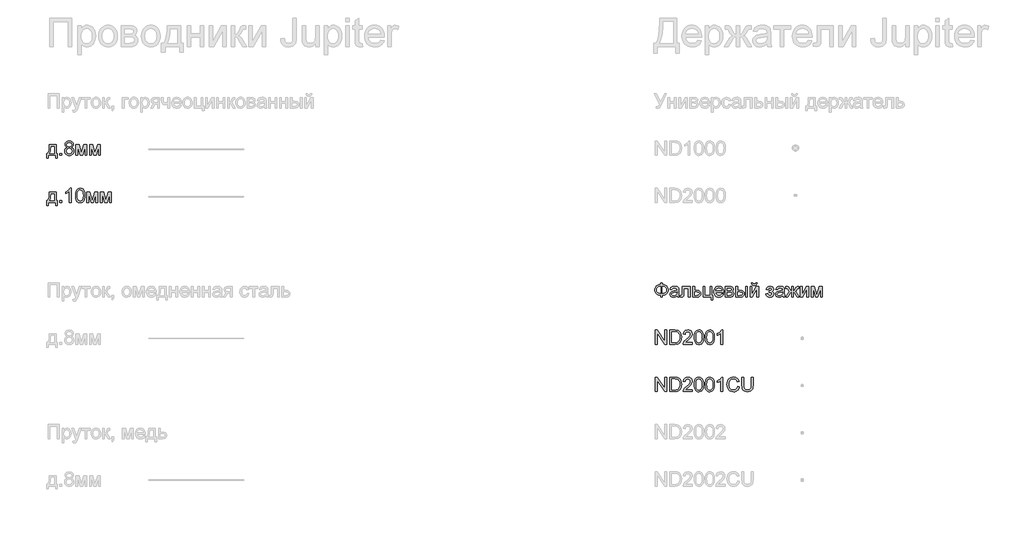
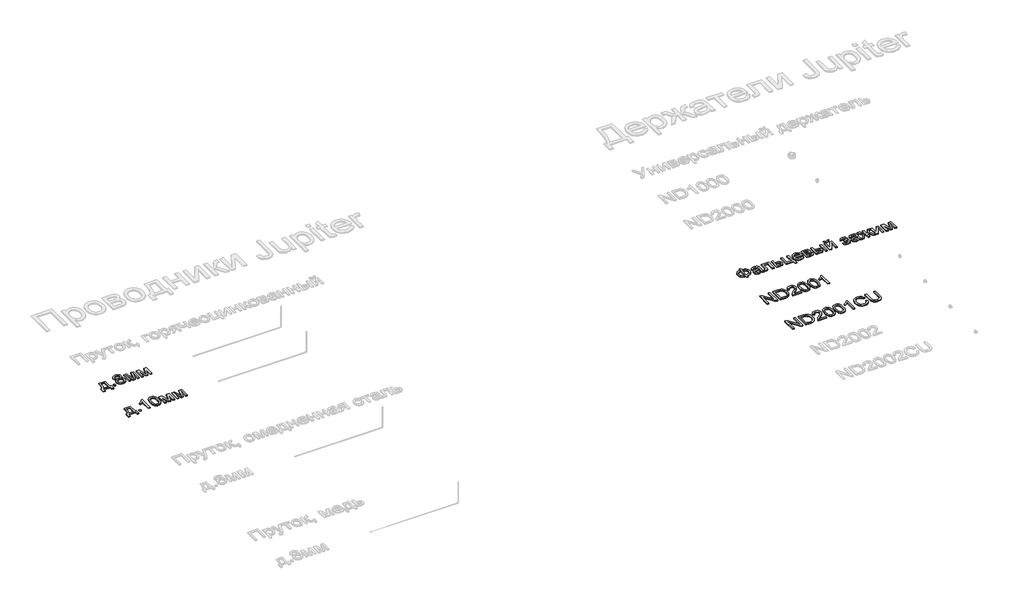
# One storey, part 96 of 124: 5 proxies.
"""IFC4 building model written with IfcOpenShell, lengths in millimetres."""

from ifc_helpers import new_model, si_unit, origin, origin_with_axes, place, context, project, spatial, polyline, outline, extrude, element, save

model = new_model("IFC4")

# Units and contexts
model_context = context("Model", 3, world=origin())
ifc_project = project(units=[si_unit("LENGTHUNIT", "METRE", prefix="MILLI")], contexts=[model_context])

# Site, building, storey
site = spatial("IfcSite", under=ifc_project)
building = spatial("IfcBuilding", under=site)
storey = spatial("IfcBuildingStorey", under=building, Name="Этаж 01", Elevation=0.0)

# Proxies
placement = place(None, origin())
element("IfcBuildingElementProxy", 1, Name="300", ObjectType="300", at=placement, inside=storey, context=model_context, shape_type="SweptSolid", body=[
    extrude(outline(polyline([(1328.0754049, -5298.196295), (1469.3420911, -5298.196295), (1469.3420911, -5481.842987), (1497.5954283, -5481.842987), (1497.5954283, -5580.7296673), (1459.924312, -5580.7296673), (1459.924312, -5519.5141033), (1304.5309572, -5519.5141033), (1304.5309572, -5580.7296673), (1266.8598409, -5580.7296673), (1266.8598409, -5481.842987), (1290.4042886, -5481.842987), (1307.5199984, -5450.9133082), (1319.5037544, -5409.9956333), (1326.3555566, -5359.0899622), (1328.0754049, -5298.196295)]), holes=[polyline([(1361.0376317, -5335.8674113), (1357.9474229, -5381.9906164), (1352.2084638, -5421.6942807), (1343.8207543, -5454.9784043), (1332.7842945, -5481.842987), (1431.6709748, -5481.842987), (1431.6709748, -5335.8674113), (1361.0376317, -5335.8674113)])]), origin_with_axes(), (0.0, 0.0, 1.0), 20.0),
    extrude(outline(polyline([(1549.3932132, -5519.5141033), (1549.3932132, -5481.842987), (1587.0643295, -5481.842987), (1587.0643295, -5519.5141033), (1549.3932132, -5519.5141033)])), origin_with_axes(), (0.0, 0.0, 1.0), 20.0),
    extrude(outline(polyline([(1703.1678872, -5353.525747), (1682.9987568, -5343.5929332), (1668.8444971, -5330.1284521), (1660.4843787, -5313.4082155), (1657.6976726, -5293.7081346), (1659.2151858, -5278.3444628), (1663.7677255, -5264.2591809), (1671.3552917, -5251.452289), (1681.9778843, -5239.9237869), (1695.1250671, -5230.3956433), (1710.2864038, -5223.5898263), (1746.651539, -5218.1451728), (1783.2374035, -5223.718585), (1798.5642871, -5230.6853503), (1811.913805, -5240.4388217), (1822.7295356, -5252.1926515), (1830.4550575, -5265.1604918), (1835.0903707, -5279.3423427), (1836.6354751, -5294.7382042), (1833.8855571, -5313.8036886), (1825.6358034, -5330.2388167), (1811.7942433, -5343.6205243), (1792.2689064, -5353.525747), (1815.4546692, -5365.4727148), (1832.3312557, -5383.0666712), (1842.6227545, -5405.4614877), (1846.0532541, -5431.8110356), (1844.3517999, -5450.6006085), (1839.2474372, -5467.8266829), (1830.7401661, -5483.4892589), (1818.8299865, -5497.5883363), (1804.1422978, -5509.2409985), (1787.3024995, -5517.5643287), (1768.3105915, -5522.5583268), (1747.1665738, -5524.2229928), (1726.0225562, -5522.551429), (1707.0306482, -5517.5367375), (1690.1908498, -5509.1789185), (1675.5031612, -5497.4779717), (1663.5929816, -5483.280026), (1655.0857104, -5467.4312098), (1649.9813478, -5449.9315231), (1648.2798935, -5430.780966), (1651.8483489, -5403.4105456), (1662.5537149, -5380.8961675), (1679.8441687, -5364.0103839), (1703.1678872, -5353.525747)]), holes=[polyline([(1695.3687889, -5294.8117806), (1698.707318, -5311.2561058), (1708.7229053, -5324.389493), (1725.1212453, -5332.9979317), (1747.6080322, -5335.8674113), (1769.5705873, -5333.0163258), (1785.7206069, -5324.4630694), (1795.6534208, -5311.7711406), (1798.9643587, -5296.5040378), (1795.5430562, -5280.6575208), (1785.2791485, -5267.5517248), (1768.9083997, -5258.750148), (1747.1665738, -5255.8162891), (1725.2867922, -5258.6857687), (1708.9436345, -5267.2942074), (1698.7625003, -5279.9125598), (1695.3687889, -5294.8117806)]), polyline([(1685.9510098, -5429.4565908), (1692.2417919, -5457.8202927), (1700.9513982, -5469.9879897), (1714.4986527, -5479.0470838), (1730.7222486, -5484.6756783), (1747.4608794, -5486.5518765), (1773.1022545, -5482.6063421), (1792.3424828, -5470.7697389), (1804.3722241, -5452.8446887), (1808.3821378, -5430.6338132), (1804.2434654, -5408.0458587), (1791.827448, -5389.7253354), (1772.1457613, -5377.5852295), (1746.2100806, -5373.5385276), (1720.9273905, -5377.5300472), (1701.8803002, -5389.5046062), (1689.9333324, -5407.4756416), (1685.9510098, -5429.4565908)])]), origin_with_axes(), (0.0, 0.0, 1.0), 20.0),
    extrude(outline(polyline([(1888.43326, -5298.196295), (1953.2540675, -5298.196295), (2003.2124425, -5475.3682638), (2057.0703666, -5298.196295), (2119.1688474, -5298.196295), (2119.1688474, -5519.5141033), (2081.497731, -5519.5141033), (2081.497731, -5341.3120648), (2027.3455014, -5519.5141033), (1977.9021612, -5519.5141033), (1926.1043763, -5332.7772025), (1926.1043763, -5519.5141033), (1888.43326, -5519.5141033), (1888.43326, -5298.196295)])), origin_with_axes(), (0.0, 0.0, 1.0), 20.0),
    extrude(outline(polyline([(2175.6755218, -5298.196295), (2240.4963294, -5298.196295), (2290.4547043, -5475.3682638), (2344.3126284, -5298.196295), (2406.4111092, -5298.196295), (2406.4111092, -5519.5141033), (2368.7399929, -5519.5141033), (2368.7399929, -5341.3120648), (2314.5877632, -5519.5141033), (2265.144423, -5519.5141033), (2213.3466381, -5332.7772025), (2213.3466381, -5519.5141033), (2175.6755218, -5519.5141033), (2175.6755218, -5298.196295)])), origin_with_axes(), (0.0, 0.0, 1.0), 20.0),
])
element("IfcBuildingElementProxy", 2, Name="300", ObjectType="300", at=placement, inside=storey, context=model_context, shape_type="SweptSolid", body=[
    extrude(outline(polyline([(1328.0754049, -6298.196295), (1469.3420911, -6298.196295), (1469.3420911, -6481.842987), (1497.5954283, -6481.842987), (1497.5954283, -6580.7296673), (1459.924312, -6580.7296673), (1459.924312, -6519.5141033), (1304.5309572, -6519.5141033), (1304.5309572, -6580.7296673), (1266.8598409, -6580.7296673), (1266.8598409, -6481.842987), (1290.4042886, -6481.842987), (1307.5199984, -6450.9133082), (1319.5037544, -6409.9956333), (1326.3555566, -6359.0899622), (1328.0754049, -6298.196295)]), holes=[polyline([(1361.0376317, -6335.8674113), (1357.9474229, -6381.9906164), (1352.2084638, -6421.6942807), (1343.8207543, -6454.9784043), (1332.7842945, -6481.842987), (1431.6709748, -6481.842987), (1431.6709748, -6335.8674113), (1361.0376317, -6335.8674113)])]), origin_with_axes(), (0.0, 0.0, 1.0), 20.0),
    extrude(outline(polyline([(1549.3932132, -6519.5141033), (1549.3932132, -6481.842987), (1587.0643295, -6481.842987), (1587.0643295, -6519.5141033), (1549.3932132, -6519.5141033)])), origin_with_axes(), (0.0, 0.0, 1.0), 20.0),
    extrude(outline(polyline([(1789.5465797, -6519.5141033), (1751.8754634, -6519.5141033), (1751.8754634, -6284.6582375), (1716.1909098, -6310.0788834), (1676.5332308, -6329.0983826), (1676.5332308, -6293.4874054), (1706.1201402, -6277.3925681), (1731.7523182, -6258.2443103), (1751.9582368, -6237.8820419), (1765.266368, -6218.1451728), (1789.5465797, -6218.1451728), (1789.5465797, -6519.5141033)])), origin_with_axes(), (0.0, 0.0, 1.0), 20.0),
    extrude(outline(polyline([(1879.0154809, -6371.2576592), (1881.7837929, -6323.0191326), (1890.088729, -6284.5478729), (1903.8475156, -6255.2552691), (1922.9773793, -6234.5527098), (1947.616276, -6222.2470571), (1977.9021612, -6218.1451728), (2001.1155151, -6220.573194), (2021.9008478, -6227.8572575), (2039.2832721, -6239.7122548), (2052.2879006, -6255.8530773), (2062.1103499, -6276.1417694), (2069.9462364, -6300.4403751), (2075.0781902, -6331.2964775), (2076.7888415, -6371.2576592), (2074.0481206, -6419.2202743), (2065.8259581, -6457.5995635), (2052.1499449, -6486.9197585), (2033.0476723, -6507.7050912), (2008.3535934, -6520.0935174), (1977.9021612, -6524.2229928), (1957.1536167, -6522.4295681), (1938.7595169, -6517.0492939), (1922.7198619, -6508.0821703), (1909.0346517, -6495.5281972), (1895.9012645, -6472.8344766), (1886.5202736, -6444.5581467), (1880.8916791, -6410.6992076), (1879.0154809, -6371.2576592)]), holes=[polyline([(1916.6865972, -6371.1840828), (1921.1011811, -6430.4406752), (1926.6194111, -6450.7086739), (1934.344933, -6464.7364742), (1954.0634079, -6481.0980259), (1977.9021612, -6486.5518765), (2001.7409145, -6481.0796318), (2021.4593894, -6464.6628978), (2029.1849113, -6450.6121048), (2034.7031413, -6430.3487047), (2039.1177252, -6371.1840828), (2034.8502941, -6313.2610627), (2029.5160051, -6293.0597426), (2022.0480006, -6278.6985492), (2002.3663139, -6261.5368541), (1977.4607028, -6255.8162891), (1953.8794669, -6260.8562725), (1934.9335442, -6275.9762225), (1926.9505049, -6291.6112072), (1921.2483339, -6312.6908456), (1916.6865972, -6371.1840828)])]), origin_with_axes(), (0.0, 0.0, 1.0), 20.0),
    extrude(outline(polyline([(2119.1688474, -6298.196295), (2183.9896549, -6298.196295), (2233.9480298, -6475.3682638), (2287.8059539, -6298.196295), (2349.9044347, -6298.196295), (2349.9044347, -6519.5141033), (2312.2333184, -6519.5141033), (2312.2333184, -6341.3120648), (2258.0810887, -6519.5141033), (2208.6377486, -6519.5141033), (2156.8399637, -6332.7772025), (2156.8399637, -6519.5141033), (2119.1688474, -6519.5141033), (2119.1688474, -6298.196295)])), origin_with_axes(), (0.0, 0.0, 1.0), 20.0),
    extrude(outline(polyline([(2406.4111092, -6298.196295), (2471.2319167, -6298.196295), (2521.1902917, -6475.3682638), (2575.0482158, -6298.196295), (2637.1466966, -6298.196295), (2637.1466966, -6519.5141033), (2599.4755803, -6519.5141033), (2599.4755803, -6341.3120648), (2545.3233506, -6519.5141033), (2495.8800104, -6519.5141033), (2444.0822255, -6332.7772025), (2444.0822255, -6519.5141033), (2406.4111092, -6519.5141033), (2406.4111092, -6298.196295)])), origin_with_axes(), (0.0, 0.0, 1.0), 20.0),
])
element("IfcBuildingElementProxy", 3, Name="300", ObjectType="300", at=placement, inside=storey, context=model_context, shape_type="SweptSolid", body=[
    extrude(outline(polyline([(14248.4715869, -8255.8162891), (14248.4715869, -8218.1451728), (14286.1427032, -8218.1451728), (14286.1427032, -8255.8162891), (14313.0141837, -8259.1364241), (14336.9012215, -8266.0066204), (14357.8038166, -8276.4268779), (14375.721969, -8290.3971967), (14390.0946587, -8307.1036378), (14400.3608657, -8325.7322623), (14406.5205898, -8346.2830703), (14408.5738312, -8368.7560616), (14406.5849692, -8390.7783976), (14400.6183831, -8411.0808852), (14390.6740729, -8429.6635245), (14376.7520386, -8446.5263154), (14359.1557829, -8460.7357575), (14338.1888085, -8471.3583501), (14313.8511152, -8478.3940932), (14286.1427032, -8481.842987), (14286.1427032, -8519.5141033), (14248.4715869, -8519.5141033), (14248.4715869, -8481.842987), (14223.3038599, -8479.0355875), (14200.3342278, -8472.6735282), (14179.5626907, -8462.7568092), (14160.9892485, -8449.2854304), (14145.699153, -8432.8158133), (14134.7776563, -8413.9043795), (14128.2247583, -8392.5511289), (14126.0404589, -8368.7560616), (14128.2178605, -8344.852929), (14134.7500651, -8323.469788), (14145.6370729, -8304.6066387), (14160.8788839, -8288.2634811), (14179.4178372, -8274.9231602), (14200.1962721, -8265.0685213), (14223.2141887, -8258.6995643), (14248.4715869, -8255.8162891)]), holes=[polyline([(14286.1427032, -8293.4874054), (14286.1427032, -8444.1718706), (14321.3857984, -8437.9454679), (14348.241184, -8422.7979267), (14358.1556038, -8412.0718673), (14365.2373322, -8399.5017994), (14370.9027149, -8368.829638), (14365.3384997, -8338.5713439), (14358.3832308, -8326.0771517), (14348.6458542, -8315.3395959), (14321.8916361, -8300.0173108), (14286.1427032, -8293.4874054)]), polyline([(14248.4715869, -8293.4874054), (14214.194182, -8299.5206701), (14187.1456583, -8314.5302555), (14176.893247, -8325.2356216), (14169.570096, -8337.853974), (14165.1762054, -8352.3853129), (14163.7115752, -8368.829638), (14165.1578113, -8385.1245112), (14169.4965196, -8399.5753758), (14176.7277001, -8412.1822319), (14186.8513527, -8422.9450795), (14213.8263, -8438.0926207), (14248.4715869, -8444.1718706), (14248.4715869, -8293.4874054)])]), origin_with_axes(), (0.0, 0.0, 1.0), 20.0),
    extrude(outline(polyline([(14596.9294127, -8491.260766), (14578.9307861, -8506.6934157), (14560.3987306, -8516.7917765), (14540.9101819, -8522.3651887), (14520.0420757, -8524.2229928), (14488.560574, -8519.7532266), (14465.3380231, -8506.3439278), (14451.0182164, -8485.9816594), (14446.2449475, -8460.652984), (14448.0475693, -8445.0363933), (14453.4554346, -8430.8545424), (14461.7971589, -8418.7144366), (14472.4013574, -8409.2230811), (14498.7784964, -8396.8622461), (14531.3728412, -8391.1968633), (14569.8900861, -8385.237175), (14596.7086835, -8378.2474171), (14596.9294127, -8369.8597076), (14594.3358447, -8353.0475004), (14586.5551405, -8342.0478288), (14569.1543221, -8333.8808485), (14544.9108986, -8331.1585217), (14522.4700969, -8332.9703406), (14506.7983239, -8338.405797), (14496.111352, -8348.4581726), (14488.6249534, -8364.1207485), (14450.9538371, -8359.411859), (14457.4929395, -8338.8104672), (14467.2510094, -8322.6236594), (14481.1385548, -8310.2444303), (14500.0660834, -8301.0657745), (14523.215058, -8295.3819977), (14549.766941, -8293.4874054), (14575.2335721, -8295.1612685), (14595.4210966, -8300.1828577), (14610.6422141, -8307.7336357), (14621.2096244, -8316.9950649), (14628.2177764, -8328.445392), (14632.7611191, -8342.5628636), (14634.600529, -8375.5250903), (14634.600529, -8422.3932565), (14636.5135154, -8487.8394635), (14644.0183081, -8519.5141033), (14606.3471918, -8519.5141033), (14596.9294127, -8491.260766)]), holes=[polyline([(14596.9294127, -8415.9185334), (14536.1553071, -8427.4700281), (14503.7449034, -8433.5768692), (14489.0664118, -8443.5096831), (14483.9160638, -8458.0042337), (14486.721164, -8469.2062404), (14495.1364647, -8478.3848962), (14508.9780247, -8484.5101314), (14528.0619032, -8486.5518765), (14548.295413, -8484.2985993), (14566.1744779, -8477.5387676), (14580.6690286, -8467.5783626), (14590.7489952, -8455.7233653), (14595.2187615, -8443.5096831), (14596.7086835, -8426.5871113), (14596.9294127, -8415.9185334)])]), origin_with_axes(), (0.0, 0.0, 1.0), 20.0),
    extrude(outline(polyline([(14705.2338721, -8298.196295), (14874.7538955, -8298.196295), (14874.7538955, -8519.2933741), (14837.0827792, -8519.2933741), (14837.0827792, -8335.8674113), (14742.9049884, -8335.8674113), (14742.9049884, -8441.4495439), (14740.3666027, -8490.15712), (14735.6117279, -8501.1843829), (14726.423875, -8510.7217236), (14712.4811474, -8517.3160083), (14693.4616483, -8519.5141033), (14662.8538663, -8517.6011169), (14662.8538663, -8481.842987), (14679.7028617, -8481.842987), (14696.735798, -8479.5253304), (14703.5416149, -8472.1676905), (14705.2338721, -8439.3158283), (14705.2338721, -8298.196295)])), origin_with_axes(), (0.0, 0.0, 1.0), 20.0),
    extrude(outline(polyline([(14931.26057, -8298.196295), (14968.9316863, -8298.196295), (14968.9316863, -8378.2474171), (15012.3417617, -8378.2474171), (15049.9760898, -8382.9655037), (15065.123631, -8388.8631119), (15077.8247568, -8397.1197635), (15087.8679353, -8407.4503497), (15095.0416342, -8419.5697622), (15100.7805933, -8449.1750658), (15095.8969598, -8476.131619), (15081.2460594, -8498.8759233), (15070.0141622, -8507.9051271), (15055.8530047, -8514.3545583), (15018.7429084, -8519.5141033), (14931.26057, -8519.5141033), (14931.26057, -8298.196295)]), holes=[polyline([(14968.9316863, -8481.842987), (15004.101205, -8481.842987), (15031.388852, -8479.8656212), (15049.5346314, -8473.9335241), (15059.7157656, -8463.8075721), (15063.109477, -8449.2486422), (15060.5986824, -8436.9429894), (15053.0662986, -8426.0720765), (15036.925476, -8418.4569192), (15008.5893653, -8415.9185334), (14968.9316863, -8415.9185334), (14968.9316863, -8481.842987)])]), origin_with_axes(), (0.0, 0.0, 1.0), 20.0),
    extrude(outline(polyline([(15147.8694887, -8298.196295), (15185.540605, -8298.196295), (15185.540605, -8481.842987), (15293.8450644, -8481.842987), (15293.8450644, -8298.196295), (15331.5161807, -8298.196295), (15331.5161807, -8481.842987), (15355.0606284, -8481.842987), (15355.0606284, -8580.7296673), (15317.3895121, -8580.7296673), (15317.3895121, -8519.5141033), (15147.8694887, -8519.5141033), (15147.8694887, -8298.196295)])), origin_with_axes(), (0.0, 0.0, 1.0), 20.0),
    extrude(outline(polyline([(15542.9747515, -8453.5896497), (15579.9101039, -8458.2985393), (15566.6019727, -8486.1288122), (15545.3659845, -8506.932539), (15516.6803859, -8519.9003794), (15481.0234235, -8524.2229928), (15457.6491213, -8522.3582909), (15436.8224018, -8516.7641853), (15418.5432652, -8507.440676), (15402.8117114, -8494.387763), (15390.1611693, -8477.9687297), (15381.1250678, -8458.5468596), (15375.7034069, -8436.1221527), (15373.8961866, -8410.6946091), (15375.721801, -8384.404842), (15381.1986442, -8361.2328748), (15390.3267162, -8341.1787076), (15403.106017, -8324.2423402), (15418.7961841, -8310.7870562), (15436.6568549, -8301.1761391), (15456.6880296, -8295.4095888), (15478.889708, -8293.4874054), (15500.3763158, -8295.4049903), (15519.8073829, -8301.157745), (15537.1829094, -8310.7456695), (15552.5028952, -8324.1687638), (15565.0085838, -8341.068343), (15573.9412185, -8361.085722), (15579.3007993, -8384.220901), (15581.0873262, -8410.4738799), (15580.866597, -8420.627423), (15411.5673029, -8420.627423), (15418.0880112, -8448.8255779), (15433.2355524, -8469.5557283), (15455.0969399, -8482.3028394), (15481.7591875, -8486.5518765), (15501.8087563, -8484.5837078), (15518.6945399, -8478.6792018), (15532.4165383, -8468.4704764), (15542.9747515, -8453.5896497)]), holes=[polyline([(15411.5673029, -8382.9563067), (15543.4162099, -8382.9563067), (15538.3210443, -8363.0538907), (15528.3330481, -8348.8168575), (15506.370493, -8335.5731057), (15478.7425552, -8331.1585217), (15453.3495005, -8334.6809918), (15432.3526356, -8345.2484021), (15417.7569174, -8361.7203185), (15411.5673029, -8382.9563067)])]), origin_with_axes(), (0.0, 0.0, 1.0), 20.0),
    extrude(outline(polyline([(15618.7584425, -8298.196295), (15701.7526207, -8298.196295), (15728.4332624, -8299.4562908), (15747.2596235, -8303.2362783), (15761.1103806, -8310.373189), (15772.8642103, -8321.7039545), (15780.8932349, -8336.4652195), (15783.5695764, -8353.893629), (15781.9508956, -8367.9375242), (15777.0948533, -8380.0500389), (15768.9830553, -8390.2863554), (15757.5971075, -8398.701656), (15771.5398351, -8406.5283455), (15782.9073888, -8419.1191068), (15790.4673638, -8435.4806585), (15792.9873555, -8454.6197193), (15786.6046028, -8483.332909), (15771.4294705, -8503.5480247), (15747.4067763, -8515.5225836), (15714.4813377, -8519.5141033), (15618.7584425, -8519.5141033), (15618.7584425, -8298.196295)]), holes=[polyline([(15656.4295588, -8382.9563067), (15693.6592168, -8382.9563067), (15724.3773634, -8381.0433203), (15739.3133724, -8373.3913748), (15744.2521881, -8367.0638045), (15745.8984601, -8359.5590118), (15743.0105864, -8348.3202168), (15734.3469654, -8341.0913356), (15718.6935865, -8337.1733924), (15694.8364391, -8335.8674113), (15656.4295588, -8335.8674113), (15656.4295588, -8382.9563067)]), polyline([(15656.4295588, -8481.842987), (15702.6355374, -8481.842987), (15727.81706, -8480.1415327), (15743.6175917, -8475.03717), (15752.0972717, -8465.7573467), (15755.3162392, -8451.5295106), (15753.7067554, -8442.1025344), (15748.8783042, -8433.3929282), (15741.465482, -8426.5779142), (15732.1028853, -8422.8347149), (15698.9567175, -8420.627423), (15656.4295588, -8420.627423), (15656.4295588, -8481.842987)])]), origin_with_axes(), (0.0, 0.0, 1.0), 20.0),
    extrude(outline(polyline([(16047.2673905, -8298.196295), (16084.9385068, -8298.196295), (16084.9385068, -8519.5141033), (16047.2673905, -8519.5141033), (16047.2673905, -8298.196295)])), origin_with_axes(), (0.0, 0.0, 1.0), 20.0),
    extrude(outline(polyline([(15840.0762508, -8298.196295), (15877.7473671, -8298.196295), (15877.7473671, -8378.2474171), (15924.3212277, -8378.2474171), (15964.5767151, -8382.9655037), (15980.7934133, -8388.8631119), (15994.4027478, -8397.1197635), (16005.170194, -8407.4503497), (16012.8612269, -8419.5697622), (16017.4758467, -8433.4780009), (16019.0140533, -8449.1750658), (16013.8545083, -8476.131619), (15998.3758734, -8498.8759233), (15986.5139783, -8507.9051271), (15971.566473, -8514.3545583), (15932.4146316, -8519.5141033), (15840.0762508, -8519.5141033), (15840.0762508, -8298.196295)]), holes=[polyline([(15877.7473671, -8481.842987), (15916.448553, -8481.842987), (15946.4493297, -8479.8656212), (15966.406928, -8473.9335241), (15977.6089347, -8463.8075721), (15981.342937, -8449.2486422), (15978.574625, -8436.9429894), (15970.2696889, -8426.0720765), (15952.5101856, -8418.4569192), (15921.3781718, -8415.9185334), (15877.7473671, -8415.9185334), (15877.7473671, -8481.842987)])]), origin_with_axes(), (0.0, 0.0, 1.0), 20.0),
    extrude(outline(polyline([(16263.8763093, -8218.1451728), (16292.1296465, -8218.1451728), (16286.0503965, -8242.2690346), (16273.8459114, -8260.0469321), (16256.0680139, -8271.0006185), (16233.2685273, -8274.6518473), (16208.5284631, -8271.0282096), (16189.3434171, -8260.1572967), (16176.2284239, -8242.4069904), (16169.6985185, -8218.1451728), (16197.9518557, -8218.1451728), (16201.9249813, -8230.5519931), (16208.5468572, -8239.3719639), (16217.8542717, -8244.6418735), (16229.8840129, -8246.39851), (16243.4588586, -8244.6970558), (16253.2813078, -8239.5926931), (16259.9031837, -8230.8279046), (16263.8763093, -8218.1451728)])), origin_with_axes(), (0.0, 0.0, 1.0), 20.0),
    extrude(outline(polyline([(16141.4451813, -8298.196295), (16179.1162976, -8298.196295), (16179.1162976, -8466.9805543), (16271.6754076, -8298.196295), (16320.3829837, -8298.196295), (16320.3829837, -8519.5141033), (16282.7118674, -8519.5141033), (16282.7118674, -8351.7599135), (16190.7413686, -8519.5141033), (16141.4451813, -8519.5141033), (16141.4451813, -8298.196295)])), origin_with_axes(), (0.0, 0.0, 1.0), 20.0),
    extrude(outline(polyline([(16546.4096816, -8420.627423), (16546.4096816, -8382.9563067), (16576.1345468, -8381.4847787), (16591.1441322, -8373.6488922), (16596.4416329, -8366.3004493), (16598.2074665, -8357.2781434), (16595.8438247, -8346.5635803), (16588.7528992, -8338.2586442), (16577.9279715, -8332.9335524), (16564.3623229, -8331.1585217), (16550.6495216, -8332.9243553), (16539.1624063, -8338.221856), (16529.900977, -8347.0510239), (16522.8652339, -8359.411859), (16480.485228, -8354.7029694), (16491.724023, -8327.9211602), (16508.8121417, -8308.7912964), (16531.7495841, -8297.3133782), (16560.5363502, -8293.4874054), (16592.027049, -8298.1503097), (16615.8658023, -8312.1390226), (16630.8753877, -8332.6024586), (16635.8785828, -8356.6895322), (16634.0989537, -8369.0503672), (16628.7600662, -8380.0868271), (16619.8619204, -8389.7989118), (16607.4045164, -8398.1866213), (16621.9450522, -8408.652864), (16632.3101275, -8421.6574925), (16638.5181361, -8437.237295), (16640.5874723, -8455.4290597), (16635.3359569, -8483.1581651), (16619.5814104, -8505.1299172), (16594.3906908, -8519.4497239), (16560.8306558, -8524.2229928), (16528.0063848, -8519.8084089), (16502.8892416, -8506.564657), (16485.4792261, -8484.4917373), (16475.7763385, -8453.5896497), (16518.1563444, -8448.8807602), (16524.5023088, -8464.8100506), (16535.1524925, -8476.692639), (16548.8744909, -8484.0870671), (16564.4358993, -8486.5518765), (16579.5926375, -8484.1882347), (16591.9534726, -8477.0973092), (16600.1756352, -8466.3275638), (16602.916356, -8452.9274621), (16601.2149018, -8442.3140666), (16596.1105391, -8433.1354108), (16581.6159885, -8422.5404093), (16553.7673215, -8420.4066938), (16546.4096816, -8420.627423)])), origin_with_axes(), (0.0, 0.0, 1.0), 20.0),
    extrude(outline(polyline([(16828.9430539, -8491.260766), (16810.9444273, -8506.6934157), (16792.4123718, -8516.7917765), (16772.9238231, -8522.3651887), (16752.0557169, -8524.2229928), (16720.5742151, -8519.7532266), (16697.3516642, -8506.3439278), (16683.0318575, -8485.9816594), (16678.2585887, -8460.652984), (16680.0612104, -8445.0363933), (16685.4690758, -8430.8545424), (16693.8108, -8418.7144366), (16704.4149985, -8409.2230811), (16730.7921376, -8396.8622461), (16763.3864823, -8391.1968633), (16801.9037272, -8385.237175), (16828.7223247, -8378.2474171), (16828.9430539, -8369.8597076), (16826.3494858, -8353.0475004), (16818.5687816, -8342.0478288), (16801.1679632, -8333.8808485), (16776.9245398, -8331.1585217), (16754.4837381, -8332.9703406), (16738.8119651, -8338.405797), (16728.1249931, -8348.4581726), (16720.6385945, -8364.1207485), (16682.9674782, -8359.411859), (16689.5065807, -8338.8104672), (16699.2646506, -8322.6236594), (16713.1521959, -8310.2444303), (16732.0797245, -8301.0657745), (16755.2286991, -8295.3819977), (16781.7805821, -8293.4874054), (16807.2472132, -8295.1612685), (16827.4347377, -8300.1828577), (16842.6558552, -8307.7336357), (16853.2232656, -8316.9950649), (16860.2314176, -8328.445392), (16864.7747602, -8342.5628636), (16866.6141702, -8375.5250903), (16866.6141702, -8422.3932565), (16868.5271566, -8487.8394635), (16876.0319493, -8519.5141033), (16838.360833, -8519.5141033), (16828.9430539, -8491.260766)]), holes=[polyline([(16828.9430539, -8415.9185334), (16768.1689483, -8427.4700281), (16735.7585445, -8433.5768692), (16721.0800529, -8443.5096831), (16715.929705, -8458.0042337), (16718.7348052, -8469.2062404), (16727.1501058, -8478.3848962), (16740.9916659, -8484.5101314), (16760.0755444, -8486.5518765), (16780.3090541, -8484.2985993), (16798.1881191, -8477.5387676), (16812.6826697, -8467.5783626), (16822.7626364, -8455.7233653), (16827.2324026, -8443.5096831), (16828.7223247, -8426.5871113), (16828.9430539, -8415.9185334)])]), origin_with_axes(), (0.0, 0.0, 1.0), 20.0),
    extrude(outline(polyline([(17054.9697517, -8298.196295), (17054.9697517, -8392.3740857), (17068.2594888, -8390.4335082), (17076.9323068, -8384.6117756), (17097.7176396, -8344.3286972), (17110.6854799, -8319.220751), (17122.512886, -8305.7010877), (17136.8786779, -8300.0724931), (17157.7559812, -8298.196295), (17172.6919902, -8298.196295), (17172.6919902, -8336.0881405), (17162.3177179, -8335.8674113), (17142.8935486, -8339.7669604), (17129.4290675, -8364.1943249), (17113.7940827, -8390.9761341), (17091.4636456, -8404.587768), (17103.8566703, -8409.8898672), (17116.0933452, -8419.2478655), (17140.0976454, -8450.131559), (17182.1097692, -8519.5141033), (17138.920423, -8519.5141033), (17097.5704868, -8451.0880522), (17086.2673125, -8433.1262137), (17076.4908484, -8422.6507739), (17066.6040198, -8417.6015935), (17054.9697517, -8415.9185334), (17054.9697517, -8519.5141033), (17017.2986354, -8519.5141033), (17017.2986354, -8415.9185334), (17005.7563378, -8417.5648053), (16995.8511151, -8422.5036211), (16986.0010747, -8432.9054845), (16974.624324, -8450.9408994), (16933.2743877, -8519.5141033), (16890.1586179, -8519.5141033), (16932.0235889, -8450.131559), (16956.2118301, -8419.2478655), (16968.5128843, -8409.8898672), (16980.9518943, -8404.587768), (16966.5677083, -8397.3772809), (16957.2602938, -8389.5781826), (16936.9532077, -8350.9505731), (16927.0203938, -8338.221856), (16910.7600096, -8335.6466821), (16899.576397, -8335.8674113), (16899.576397, -8298.196295), (16905.2417797, -8298.196295), (16938.2775828, -8300.5507397), (16955.4208838, -8310.55713), (16974.624324, -8344.3286972), (16995.1889275, -8384.3542582), (17003.8617455, -8390.3691289), (17017.2986354, -8392.3740857), (17017.2986354, -8298.196295), (17054.9697517, -8298.196295)])), origin_with_axes(), (0.0, 0.0, 1.0), 20.0),
    extrude(outline(polyline([(17200.9453274, -8298.196295), (17238.6164437, -8298.196295), (17238.6164437, -8466.9805543), (17331.1755537, -8298.196295), (17379.8831299, -8298.196295), (17379.8831299, -8519.5141033), (17342.2120135, -8519.5141033), (17342.2120135, -8351.7599135), (17250.2415148, -8519.5141033), (17200.9453274, -8519.5141033), (17200.9453274, -8298.196295)])), origin_with_axes(), (0.0, 0.0, 1.0), 20.0),
    extrude(outline(polyline([(17436.3898043, -8298.196295), (17501.2106119, -8298.196295), (17551.1689868, -8475.3682638), (17605.0269109, -8298.196295), (17667.1253917, -8298.196295), (17667.1253917, -8519.5141033), (17629.4542754, -8519.5141033), (17629.4542754, -8341.3120648), (17575.3020457, -8519.5141033), (17525.8587055, -8519.5141033), (17474.0609206, -8332.7772025), (17474.0609206, -8519.5141033), (17436.3898043, -8519.5141033), (17436.3898043, -8298.196295)])), origin_with_axes(), (0.0, 0.0, 1.0), 20.0),
])
element("IfcBuildingElementProxy", 4, Name="300", ObjectType="300", at=placement, inside=storey, context=model_context, shape_type="SweptSolid", body=[
    extrude(outline(polyline([(14140.1671275, -9519.5141033), (14140.1671275, -9218.1451728), (14180.4869942, -9218.1451728), (14337.9404881, -9456.9005877), (14337.9404881, -9218.1451728), (14375.6116044, -9218.1451728), (14375.6116044, -9519.5141033), (14335.2917378, -9519.5141033), (14177.8382438, -9280.685112), (14177.8382438, -9519.5141033), (14140.1671275, -9519.5141033)])), origin_with_axes(), (0.0, 0.0, 1.0), 20.0),
    extrude(outline(polyline([(14441.536058, -9519.5141033), (14441.536058, -9218.1451728), (14545.4995098, -9218.1451728), (14599.2838575, -9222.4861804), (14623.3065518, -9230.8554957), (14643.5768497, -9244.0440653), (14664.4173648, -9266.9999018), (14679.2614033, -9295.5475446), (14688.1457534, -9329.1351708), (14691.1072035, -9367.2109573), (14689.1022466, -9399.5569817), (14683.087376, -9428.0218511), (14673.9271143, -9452.2560775), (14662.4859843, -9471.9101731), (14649.3158089, -9487.4255962), (14634.968411, -9499.2438053), (14618.4964947, -9508.0085939), (14598.9527637, -9514.3637553), (14550.5027049, -9519.5141033), (14441.536058, -9519.5141033)]), holes=[polyline([(14479.2071743, -9481.842987), (14545.8673918, -9481.842987), (14573.4401473, -9480.4818236), (14594.3542388, -9476.3983334), (14610.1363764, -9469.8316398), (14622.3132704, -9461.020866), (14635.4006724, -9444.7144966), (14645.2323187, -9423.6072671), (14651.3851451, -9397.6072071), (14653.4360872, -9366.6223461), (14649.4169764, -9325.5667154), (14637.359644, -9295.253239), (14619.5449584, -9274.4311181), (14598.2537879, -9261.8495538), (14576.5855384, -9257.3246053), (14544.8373222, -9255.8162891), (14479.2071743, -9255.8162891), (14479.2071743, -9481.842987)])]), origin_with_axes(), (0.0, 0.0, 1.0), 20.0),
    extrude(outline(polyline([(14921.8427909, -9481.842987), (14921.8427909, -9519.5141033), (14724.0694303, -9519.5141033), (14728.1161322, -9493.5416344), (14737.4051526, -9473.2437453), (14750.9983923, -9453.5528615), (14770.661685, -9432.9422727), (14798.1608641, -9409.8852687), (14838.8118246, -9373.7776509), (14863.2024008, -9347.1246003), (14875.397689, -9325.493139), (14879.462785, -9304.4502889), (14875.6276152, -9285.5871396), (14864.1221058, -9269.9061695), (14846.4361789, -9259.3387592), (14824.0597566, -9255.8162891), (14800.5612941, -9259.2559858), (14782.3051501, -9269.5750757), (14770.5237292, -9285.9642186), (14766.4494361, -9307.614074), (14728.7783198, -9302.9051845), (14737.9109903, -9266.4664729), (14746.4573489, -9251.9305355), (14757.6570564, -9239.8502105), (14771.2525954, -9230.3542565), (14786.9864485, -9223.5714322), (14824.869097, -9218.1451728), (14845.0589207, -9219.653489), (14863.0276569, -9224.1784375), (14878.7753056, -9231.7200184), (14892.3018667, -9242.2782317), (14903.1658818, -9255.0713281), (14910.9258927, -9269.3175583), (14915.5818992, -9285.0169225), (14917.1339013, -9302.1694205), (14915.4600383, -9320.1864412), (14910.438449, -9337.8907622), (14901.5265077, -9355.8985859), (14888.1815883, -9374.8261146), (14866.9088119, -9397.4232661), (14834.2132996, -9426.4399585), (14790.8768006, -9462.676335), (14773.8806524, -9481.842987), (14921.8427909, -9481.842987)])), origin_with_axes(), (0.0, 0.0, 1.0), 20.0),
    extrude(outline(polyline([(14959.5139072, -9371.2576592), (14962.2822192, -9323.0191326), (14970.5871552, -9284.5478729), (14984.3459419, -9255.2552691), (15003.4758056, -9234.5527098), (15028.1147022, -9222.2470571), (15058.4005875, -9218.1451728), (15081.6139414, -9220.573194), (15102.3992741, -9227.8572575), (15119.7816984, -9239.7122548), (15132.7863269, -9255.8530773), (15142.6087762, -9276.1417694), (15150.4446627, -9300.4403751), (15155.5766165, -9331.2964775), (15157.2872678, -9371.2576592), (15154.5465469, -9419.2202743), (15146.3243843, -9457.5995635), (15132.6483712, -9486.9197585), (15113.5460986, -9507.7050912), (15088.8520196, -9520.0935174), (15058.4005875, -9524.2229928), (15037.652043, -9522.4295681), (15019.2579432, -9517.0492939), (15003.2182882, -9508.0821703), (14989.533078, -9495.5281972), (14976.3996908, -9472.8344766), (14967.0186999, -9444.5581467), (14961.3901054, -9410.6992076), (14959.5139072, -9371.2576592)]), holes=[polyline([(14997.1850235, -9371.1840828), (15001.5996074, -9430.4406752), (15007.1178374, -9450.7086739), (15014.8433593, -9464.7364742), (15034.5618342, -9481.0980259), (15058.4005875, -9486.5518765), (15082.2393408, -9481.0796318), (15101.9578157, -9464.6628978), (15109.6833376, -9450.6121048), (15115.2015675, -9430.3487047), (15119.6161515, -9371.1840828), (15115.3487203, -9313.2610627), (15110.0144314, -9293.0597426), (15102.5464269, -9278.6985492), (15082.8647402, -9261.5368541), (15057.9591291, -9255.8162891), (15034.3778932, -9260.8562725), (15015.4319705, -9275.9762225), (15007.4489312, -9291.6112072), (15001.7467602, -9312.6908456), (14997.1850235, -9371.1840828)])]), origin_with_axes(), (0.0, 0.0, 1.0), 20.0),
    extrude(outline(polyline([(15190.2494946, -9371.2576592), (15193.0178066, -9323.0191326), (15201.3227426, -9284.5478729), (15215.0815292, -9255.2552691), (15234.211393, -9234.5527098), (15258.8502896, -9222.2470571), (15289.1361749, -9218.1451728), (15312.3495288, -9220.573194), (15333.1348615, -9227.8572575), (15350.5172858, -9239.7122548), (15363.5219143, -9255.8530773), (15373.3443636, -9276.1417694), (15381.1802501, -9300.4403751), (15386.3122039, -9331.2964775), (15388.0228552, -9371.2576592), (15385.2821343, -9419.2202743), (15377.0599717, -9457.5995635), (15363.3839585, -9486.9197585), (15344.2816859, -9507.7050912), (15319.587607, -9520.0935174), (15289.1361749, -9524.2229928), (15268.3876303, -9522.4295681), (15249.9935306, -9517.0492939), (15233.9538756, -9508.0821703), (15220.2686654, -9495.5281972), (15207.1352781, -9472.8344766), (15197.7542873, -9444.5581467), (15192.1256927, -9410.6992076), (15190.2494946, -9371.2576592)]), holes=[polyline([(15227.9206109, -9371.1840828), (15232.3351948, -9430.4406752), (15237.8534247, -9450.7086739), (15245.5789466, -9464.7364742), (15265.2974216, -9481.0980259), (15289.1361749, -9486.5518765), (15312.9749282, -9481.0796318), (15332.6934031, -9464.6628978), (15340.418925, -9450.6121048), (15345.9371549, -9430.3487047), (15350.3517389, -9371.1840828), (15346.0843077, -9313.2610627), (15340.7500188, -9293.0597426), (15333.2820143, -9278.6985492), (15313.6003275, -9261.5368541), (15288.6947165, -9255.8162891), (15265.1134806, -9260.8562725), (15246.1675578, -9275.9762225), (15238.1845185, -9291.6112072), (15232.4823476, -9312.6908456), (15227.9206109, -9371.1840828)])]), origin_with_axes(), (0.0, 0.0, 1.0), 20.0),
    extrude(outline(polyline([(15562.2517681, -9519.5141033), (15524.5806518, -9519.5141033), (15524.5806518, -9284.6582375), (15488.8960982, -9310.0788834), (15449.2384192, -9329.0983826), (15449.2384192, -9293.4874054), (15478.8253286, -9277.3925681), (15504.4575066, -9258.2443103), (15524.6634252, -9237.8820419), (15537.9715564, -9218.1451728), (15562.2517681, -9218.1451728), (15562.2517681, -9519.5141033)])), origin_with_axes(), (0.0, 0.0, 1.0), 20.0),
])
element("IfcBuildingElementProxy", 5, Name="300", ObjectType="300", at=placement, inside=storey, context=model_context, shape_type="SweptSolid", body=[
    extrude(outline(polyline([(14140.1671275, -10519.5141033), (14140.1671275, -10218.1451728), (14180.4869942, -10218.1451728), (14337.9404881, -10456.9005877), (14337.9404881, -10218.1451728), (14375.6116044, -10218.1451728), (14375.6116044, -10519.5141033), (14335.2917378, -10519.5141033), (14177.8382438, -10280.685112), (14177.8382438, -10519.5141033), (14140.1671275, -10519.5141033)])), origin_with_axes(), (0.0, 0.0, 1.0), 20.0),
    extrude(outline(polyline([(14441.536058, -10519.5141033), (14441.536058, -10218.1451728), (14545.4995098, -10218.1451728), (14599.2838575, -10222.4861804), (14623.3065518, -10230.8554957), (14643.5768497, -10244.0440653), (14664.4173648, -10266.9999018), (14679.2614033, -10295.5475446), (14688.1457534, -10329.1351708), (14691.1072035, -10367.2109573), (14689.1022466, -10399.5569817), (14683.087376, -10428.0218511), (14673.9271143, -10452.2560775), (14662.4859843, -10471.9101731), (14649.3158089, -10487.4255962), (14634.968411, -10499.2438053), (14618.4964947, -10508.0085939), (14598.9527637, -10514.3637553), (14550.5027049, -10519.5141033), (14441.536058, -10519.5141033)]), holes=[polyline([(14479.2071743, -10481.842987), (14545.8673918, -10481.842987), (14573.4401473, -10480.4818236), (14594.3542388, -10476.3983334), (14610.1363764, -10469.8316398), (14622.3132704, -10461.020866), (14635.4006724, -10444.7144966), (14645.2323187, -10423.6072671), (14651.3851451, -10397.6072071), (14653.4360872, -10366.6223461), (14649.4169764, -10325.5667154), (14637.359644, -10295.253239), (14619.5449584, -10274.4311181), (14598.2537879, -10261.8495538), (14576.5855384, -10257.3246053), (14544.8373222, -10255.8162891), (14479.2071743, -10255.8162891), (14479.2071743, -10481.842987)])]), origin_with_axes(), (0.0, 0.0, 1.0), 20.0),
    extrude(outline(polyline([(14921.8427909, -10481.842987), (14921.8427909, -10519.5141033), (14724.0694303, -10519.5141033), (14728.1161322, -10493.5416344), (14737.4051526, -10473.2437453), (14750.9983923, -10453.5528615), (14770.661685, -10432.9422727), (14798.1608641, -10409.8852687), (14838.8118246, -10373.7776509), (14863.2024008, -10347.1246003), (14875.397689, -10325.493139), (14879.462785, -10304.4502889), (14875.6276152, -10285.5871396), (14864.1221058, -10269.9061695), (14846.4361789, -10259.3387592), (14824.0597566, -10255.8162891), (14800.5612941, -10259.2559858), (14782.3051501, -10269.5750757), (14770.5237292, -10285.9642186), (14766.4494361, -10307.614074), (14728.7783198, -10302.9051845), (14737.9109903, -10266.4664729), (14746.4573489, -10251.9305355), (14757.6570564, -10239.8502105), (14771.2525954, -10230.3542565), (14786.9864485, -10223.5714322), (14824.869097, -10218.1451728), (14845.0589207, -10219.653489), (14863.0276569, -10224.1784375), (14878.7753056, -10231.7200184), (14892.3018667, -10242.2782317), (14903.1658818, -10255.0713281), (14910.9258927, -10269.3175583), (14915.5818992, -10285.0169225), (14917.1339013, -10302.1694205), (14915.4600383, -10320.1864412), (14910.438449, -10337.8907622), (14901.5265077, -10355.8985859), (14888.1815883, -10374.8261146), (14866.9088119, -10397.4232661), (14834.2132996, -10426.4399585), (14790.8768006, -10462.676335), (14773.8806524, -10481.842987), (14921.8427909, -10481.842987)])), origin_with_axes(), (0.0, 0.0, 1.0), 20.0),
    extrude(outline(polyline([(14959.5139072, -10371.2576592), (14962.2822192, -10323.0191326), (14970.5871552, -10284.5478729), (14984.3459419, -10255.2552691), (15003.4758056, -10234.5527098), (15028.1147022, -10222.2470571), (15058.4005875, -10218.1451728), (15081.6139414, -10220.573194), (15102.3992741, -10227.8572575), (15119.7816984, -10239.7122548), (15132.7863269, -10255.8530773), (15142.6087762, -10276.1417694), (15150.4446627, -10300.4403751), (15155.5766165, -10331.2964775), (15157.2872678, -10371.2576592), (15154.5465469, -10419.2202743), (15146.3243843, -10457.5995635), (15132.6483712, -10486.9197585), (15113.5460986, -10507.7050912), (15088.8520196, -10520.0935174), (15058.4005875, -10524.2229928), (15037.652043, -10522.4295681), (15019.2579432, -10517.0492939), (15003.2182882, -10508.0821703), (14989.533078, -10495.5281972), (14976.3996908, -10472.8344766), (14967.0186999, -10444.5581467), (14961.3901054, -10410.6992076), (14959.5139072, -10371.2576592)]), holes=[polyline([(14997.1850235, -10371.1840828), (15001.5996074, -10430.4406752), (15007.1178374, -10450.7086739), (15014.8433593, -10464.7364742), (15034.5618342, -10481.0980259), (15058.4005875, -10486.5518765), (15082.2393408, -10481.0796318), (15101.9578157, -10464.6628978), (15109.6833376, -10450.6121048), (15115.2015675, -10430.3487047), (15119.6161515, -10371.1840828), (15115.3487203, -10313.2610627), (15110.0144314, -10293.0597426), (15102.5464269, -10278.6985492), (15082.8647402, -10261.5368541), (15057.9591291, -10255.8162891), (15034.3778932, -10260.8562725), (15015.4319705, -10275.9762225), (15007.4489312, -10291.6112072), (15001.7467602, -10312.6908456), (14997.1850235, -10371.1840828)])]), origin_with_axes(), (0.0, 0.0, 1.0), 20.0),
    extrude(outline(polyline([(15190.2494946, -10371.2576592), (15193.0178066, -10323.0191326), (15201.3227426, -10284.5478729), (15215.0815292, -10255.2552691), (15234.211393, -10234.5527098), (15258.8502896, -10222.2470571), (15289.1361749, -10218.1451728), (15312.3495288, -10220.573194), (15333.1348615, -10227.8572575), (15350.5172858, -10239.7122548), (15363.5219143, -10255.8530773), (15373.3443636, -10276.1417694), (15381.1802501, -10300.4403751), (15386.3122039, -10331.2964775), (15388.0228552, -10371.2576592), (15385.2821343, -10419.2202743), (15377.0599717, -10457.5995635), (15363.3839585, -10486.9197585), (15344.2816859, -10507.7050912), (15319.587607, -10520.0935174), (15289.1361749, -10524.2229928), (15268.3876303, -10522.4295681), (15249.9935306, -10517.0492939), (15233.9538756, -10508.0821703), (15220.2686654, -10495.5281972), (15207.1352781, -10472.8344766), (15197.7542873, -10444.5581467), (15192.1256927, -10410.6992076), (15190.2494946, -10371.2576592)]), holes=[polyline([(15227.9206109, -10371.1840828), (15232.3351948, -10430.4406752), (15237.8534247, -10450.7086739), (15245.5789466, -10464.7364742), (15265.2974216, -10481.0980259), (15289.1361749, -10486.5518765), (15312.9749282, -10481.0796318), (15332.6934031, -10464.6628978), (15340.418925, -10450.6121048), (15345.9371549, -10430.3487047), (15350.3517389, -10371.1840828), (15346.0843077, -10313.2610627), (15340.7500188, -10293.0597426), (15333.2820143, -10278.6985492), (15313.6003275, -10261.5368541), (15288.6947165, -10255.8162891), (15265.1134806, -10260.8562725), (15246.1675578, -10275.9762225), (15238.1845185, -10291.6112072), (15232.4823476, -10312.6908456), (15227.9206109, -10371.1840828)])]), origin_with_axes(), (0.0, 0.0, 1.0), 20.0),
    extrude(outline(polyline([(15562.2517681, -10519.5141033), (15524.5806518, -10519.5141033), (15524.5806518, -10284.6582375), (15488.8960982, -10310.0788834), (15449.2384192, -10329.0983826), (15449.2384192, -10293.4874054), (15478.8253286, -10277.3925681), (15504.4575066, -10258.2443103), (15524.6634252, -10237.8820419), (15537.9715564, -10218.1451728), (15562.2517681, -10218.1451728), (15562.2517681, -10519.5141033)])), origin_with_axes(), (0.0, 0.0, 1.0), 20.0),
    extrude(outline(polyline([(15877.7473671, -10412.3868663), (15915.4184835, -10422.0989509), (15907.9642745, -10445.5261362), (15898.0360592, -10465.99647), (15885.6338374, -10483.5099522), (15870.7576092, -10498.0665829), (15853.743067, -10509.5100123), (15834.9259029, -10517.6838903), (15814.3061171, -10522.5882172), (15791.8837095, -10524.2229928), (15748.1885255, -10519.27498), (15713.4880563, -10504.4309415), (15686.890188, -10480.2059121), (15667.5028069, -10447.1149266), (15655.6662037, -10408.2114056), (15651.7206693, -10366.5487697), (15656.1812385, -10322.6052653), (15669.5629461, -10284.6582375), (15691.1668162, -10253.9124998), (15720.2938732, -10231.5728656), (15754.8379926, -10217.9704289), (15792.6930499, -10213.4362833), (15833.9970009, -10219.3040011), (15851.9657371, -10226.6386484), (15868.1456471, -10236.9071546), (15882.2700164, -10249.8382067), (15894.0721307, -10265.1604918), (15910.7095939, -10302.9787609), (15873.0384776, -10311.9550816), (15859.9786668, -10284.4834936), (15842.13639, -10265.6387384), (15819.2909181, -10254.7402343), (15791.2215219, -10251.1073996), (15758.8663004, -10255.1357074), (15732.2868263, -10267.220631), (15712.1176959, -10286.0929773), (15698.9935057, -10310.4835536), (15691.7922156, -10338.0563091), (15689.3917856, -10366.4751933), (15692.233674, -10401.27683), (15700.7593393, -10431.3695772), (15715.2906781, -10455.6038036), (15736.1495872, -10472.8298781), (15761.1563658, -10483.1213769), (15788.1313131, -10486.5518765), (15819.5760267, -10481.8797752), (15845.7784218, -10467.8634711), (15865.5612761, -10444.6501172), (15877.7473671, -10412.3868663)])), origin_with_axes(), (0.0, 0.0, 1.0), 20.0),
    extrude(outline(polyline([(16164.989629, -10218.1451728), (16202.6607453, -10218.1451728), (16202.6607453, -10392.0062037), (16200.1039654, -10432.7215435), (16192.4336258, -10464.0742866), (16178.1046221, -10488.2625278), (16155.5718499, -10507.484362), (16124.7801269, -10520.0383351), (16085.6742708, -10524.2229928), (16047.4237404, -10520.580961), (16016.8435495, -10509.6548658), (15993.9245012, -10491.8217861), (15978.6573984, -10467.4588009), (15970.0765509, -10434.7816827), (15967.2162684, -10392.0062037), (15967.2162684, -10218.1451728), (16004.8873847, -10218.1451728), (16004.8873847, -10390.6818285), (16006.7451888, -10424.5361692), (16012.318601, -10448.108208), (16022.4169618, -10464.4329715), (16037.8496114, -10476.5454862), (16057.9727566, -10484.0502789), (16082.1426037, -10486.5518765), (16120.4575135, -10481.6038637), (16134.8003128, -10475.4188476), (16145.9333416, -10466.7598252), (16154.2704673, -10454.5829311), (16160.2255571, -10437.8443003), (16164.989629, -10390.6818285), (16164.989629, -10218.1451728)])), origin_with_axes(), (0.0, 0.0, 1.0), 20.0),
])

save(model, "model.ifc")
